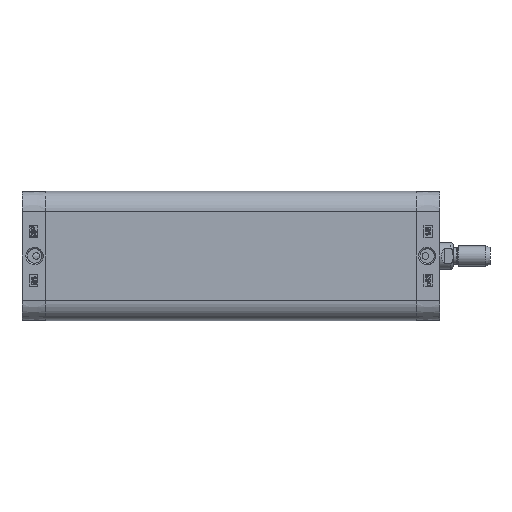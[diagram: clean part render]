
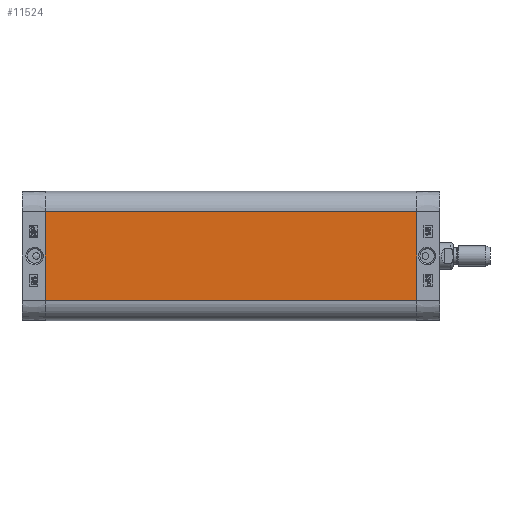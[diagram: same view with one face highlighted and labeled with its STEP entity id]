
A CAD part, left-side view. The second image highlights one B-rep face of the part: STEP entity #11524.
In plain terms, the highlighted planar face has unit normal (-1, 0, 0).
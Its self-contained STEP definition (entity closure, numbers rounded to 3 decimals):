
#5854=CARTESIAN_POINT('',(-38.5,-221.5,26.5));
#5855=VERTEX_POINT('',#5854);
#5862=CARTESIAN_POINT('',(-38.5,-221.5,-26.5));
#5863=VERTEX_POINT('',#5862);
#5864=CARTESIAN_POINT('',(-38.5,-221.5,-26.5));
#5865=DIRECTION('',(0.0,0.0,1.0));
#5866=VECTOR('',#5865,53.0);
#5867=LINE('',#5864,#5866);
#5868=EDGE_CURVE('',#5863,#5855,#5867,.T.);
#11482=CARTESIAN_POINT('',(-38.5,0.0,-26.5));
#11483=VERTEX_POINT('',#11482);
#11484=CARTESIAN_POINT('',(-38.5,0.0,-26.5));
#11485=DIRECTION('',(0.0,-1.0,0.0));
#11486=VECTOR('',#11485,221.5);
#11487=LINE('',#11484,#11486);
#11488=EDGE_CURVE('',#11483,#5863,#11487,.T.);
#11501=CARTESIAN_POINT('',(-38.5,0.0,-26.5));
#11502=DIRECTION('',(-1.0,0.0,0.0));
#11503=DIRECTION('',(0.0,0.0,1.0));
#11504=AXIS2_PLACEMENT_3D('',#11501,#11502,#11503);
#11505=PLANE('',#11504);
#11506=ORIENTED_EDGE('',*,*,#5868,.T.);
#11507=CARTESIAN_POINT('',(-38.5,0.0,26.5));
#11508=VERTEX_POINT('',#11507);
#11509=CARTESIAN_POINT('',(-38.5,0.0,26.5));
#11510=DIRECTION('',(0.0,-1.0,0.0));
#11511=VECTOR('',#11510,221.5);
#11512=LINE('',#11509,#11511);
#11513=EDGE_CURVE('',#11508,#5855,#11512,.T.);
#11514=ORIENTED_EDGE('',*,*,#11513,.F.);
#11515=CARTESIAN_POINT('',(-38.5,0.0,-26.5));
#11516=DIRECTION('',(0.0,0.0,1.0));
#11517=VECTOR('',#11516,53.0);
#11518=LINE('',#11515,#11517);
#11519=EDGE_CURVE('',#11483,#11508,#11518,.T.);
#11520=ORIENTED_EDGE('',*,*,#11519,.F.);
#11521=ORIENTED_EDGE('',*,*,#11488,.T.);
#11522=EDGE_LOOP('',(#11506,#11514,#11520,#11521));
#11523=FACE_OUTER_BOUND('',#11522,.T.);
#11524=ADVANCED_FACE('',(#11523),#11505,.T.);
